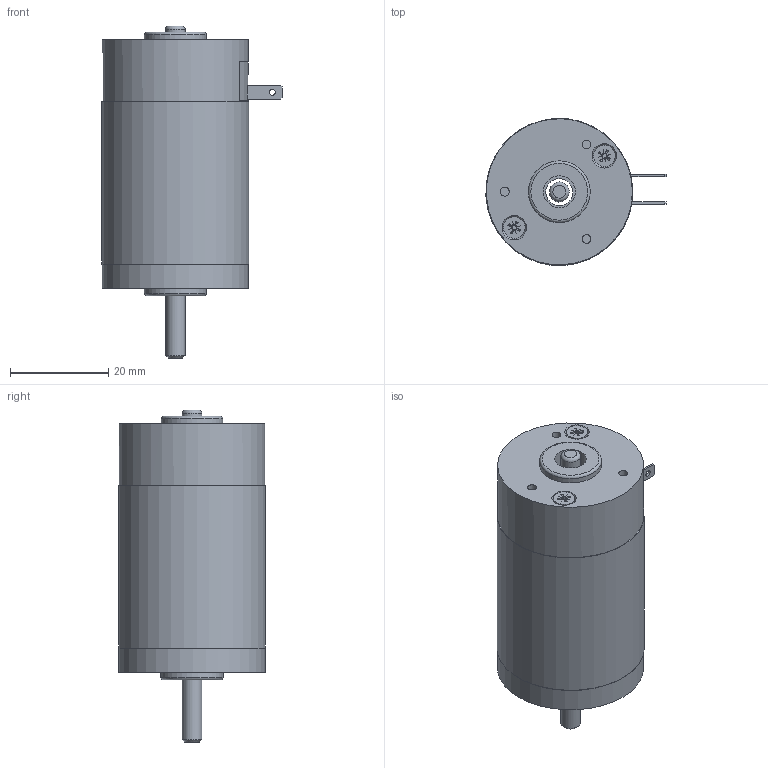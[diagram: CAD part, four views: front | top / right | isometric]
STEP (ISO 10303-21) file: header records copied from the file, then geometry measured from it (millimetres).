
FILE_DESCRIPTION((''),'2;1');
FILE_NAME('D:\연구개발부2팀 1파트\10_진행업무\3D\RM3_SERIES\RM32ㅁBT.stp','2014-06-23T09:57:44',('song'),(''),'Autodesk Inventor 2011','Autodesk Inventor 2011','');
FILE_SCHEMA(('AUTOMOTIVE_DESIGN { 1 0 10303 214 1 1 1 1 }'));
Length unit declared in the file: millimetre
Products named in the file (7): RM32ㅁBT; RM3_front; RM32_SHAFT; RM3_PIPE_HOUSING_30X33.1; RM3_REAR_HOUSING; AS 1427 Z - 미터 M2.5 x 10; RM3_BRUSH_TERMINAL_TYPE
Assembly tree (7 placements, depth 2):
  RM32ㅁBT
    RM3_front
    RM32_SHAFT
    RM3_PIPE_HOUSING_30X33.1
    RM3_REAR_HOUSING
    AS 1427 Z - 미터 M2.5 x 10  x2
    RM3_BRUSH_TERMINAL_TYPE
Bounding box: 36.75 x 29.94 x 67.71 mm (x, y, z)
Volume: 24621.1 mm3; surface area: 12972.4 mm2
Topology: 7 solids, 7 shells, 145 faces, 354 edges, 231 vertices
Faces by surface type: plane 70, cone 35, cylinder 29, torus 11
Full cylindrical faces by diameter (mm): 1.2 x2, 1.8 x3, 2 x3, 2.224 x2, 2.5 x2, 2.6 x2, 3.969 x1, 4 x1, 4.4 x2, 5.5 x1, 6.5 x1, 12.6 x1, 12.7 x1, 17.855 x1, 27.2 x1, 29.8 x2, 30 x1
Entity records: 3241 total; most frequent: CARTESIAN_POINT 718, DIRECTION 498, ORIENTED_EDGE 412, AXIS2_PLACEMENT_3D 210, EDGE_CURVE 206, EDGE_LOOP 170, VERTEX_POINT 154, FACE_OUTER_BOUND 104
